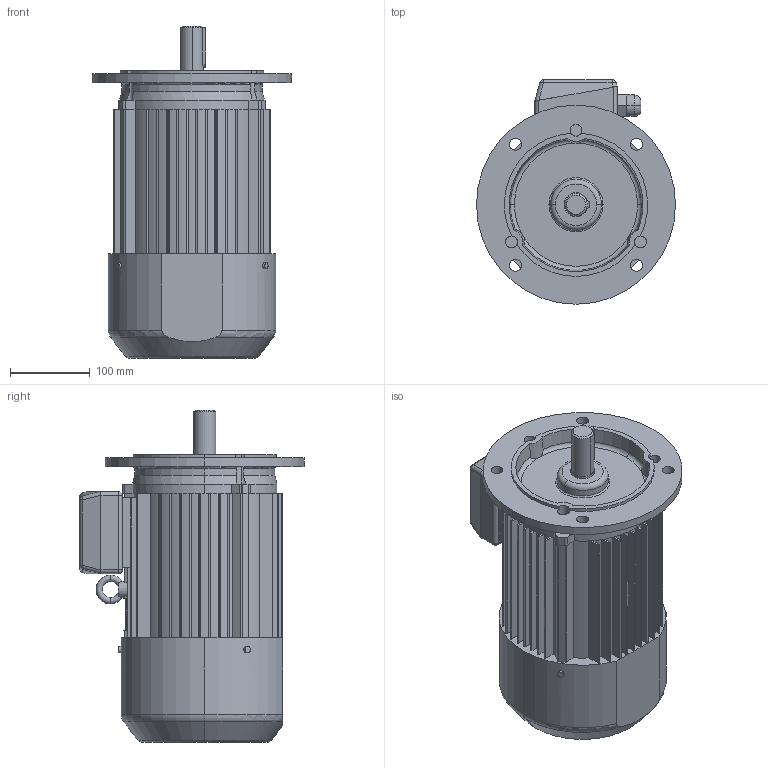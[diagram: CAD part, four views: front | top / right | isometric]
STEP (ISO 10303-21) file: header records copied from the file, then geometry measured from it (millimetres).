
FILE_DESCRIPTION (( 'STEP AP203' ), '1' );
FILE_NAME ('3SIEK100L4A,4B.STEP', '2016-02-08T12:11:44', ( 'Indukta' ), ( 'Celma Indukta S.A.' ), 'SwSTEP 2.0', 'SolidWorks 2003064', '' );
FILE_SCHEMA (( 'CONFIG_CONTROL_DESIGN' ));
Length unit declared in the file: millimetre
Products named in the file (1): 3SIEK100L4A,4B
Bounding box: 250 x 282 x 417 mm (x, y, z)
Volume: 10901657.6 mm3; surface area: 520939.4 mm2
Topology: 1 solids, 1 shells, 579 faces, 1569 edges, 998 vertices
Faces by surface type: plane 279, cylinder 173, bspline 78, torus 23, cone 18, sphere 8
Entity records: 24849 total; most frequent: CARTESIAN_POINT 10477, ORIENTED_EDGE 3122, DIRECTION 2827, EDGE_CURVE 1561, VERTEX_POINT 998, AXIS2_PLACEMENT_3D 984, LINE 859, VECTOR 859
